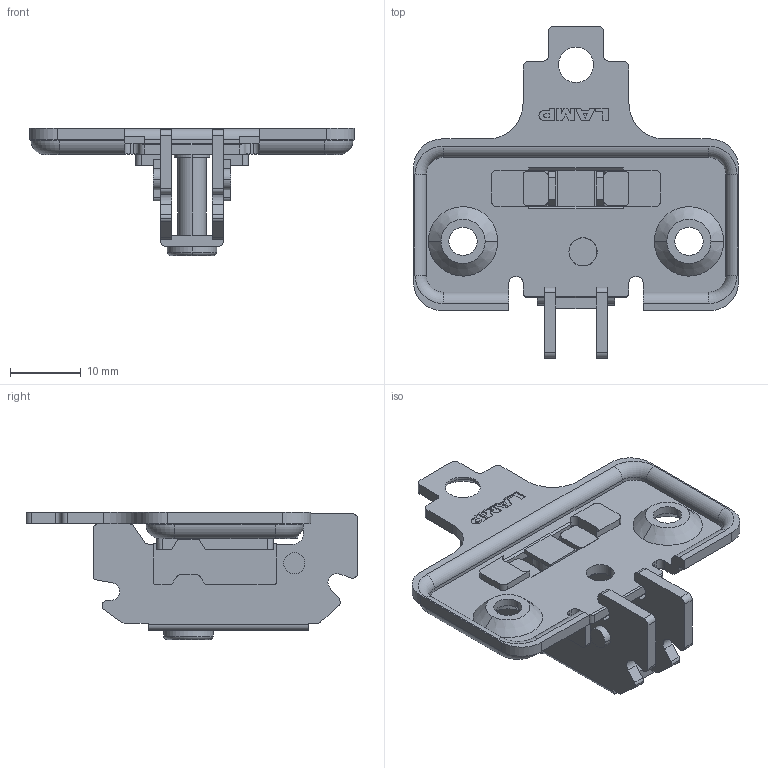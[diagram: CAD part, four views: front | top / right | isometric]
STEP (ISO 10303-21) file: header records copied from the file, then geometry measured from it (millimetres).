
FILE_DESCRIPTION (( 'STEP AP203' ), '1' );
FILE_NAME ('230_P4W_32T_5.STEP', '2011-10-06T07:14:20', ( '' ), ( '' ), 'SwSTEP 2.0', 'SolidWorks 2011', '' );
FILE_SCHEMA (( 'CONFIG_CONTROL_DESIGN' ));
Length unit declared in the file: millimetre
Products named in the file (1): 230_P4W_32T_5
Bounding box: 46 x 47 x 18 mm (x, y, z)
Volume: 4119.9 mm3; surface area: 6170.2 mm2
Topology: 1 solids, 1 shells, 949 faces, 2829 edges, 1836 vertices
Faces by surface type: plane 557, cylinder 364, torus 18, cone 10
Entity records: 32468 total; most frequent: CARTESIAN_POINT 7127, ORIENTED_EDGE 5658, DIRECTION 5005, EDGE_CURVE 2829, VECTOR 1845, LINE 1845, VERTEX_POINT 1836, AXIS2_PLACEMENT_3D 1580
